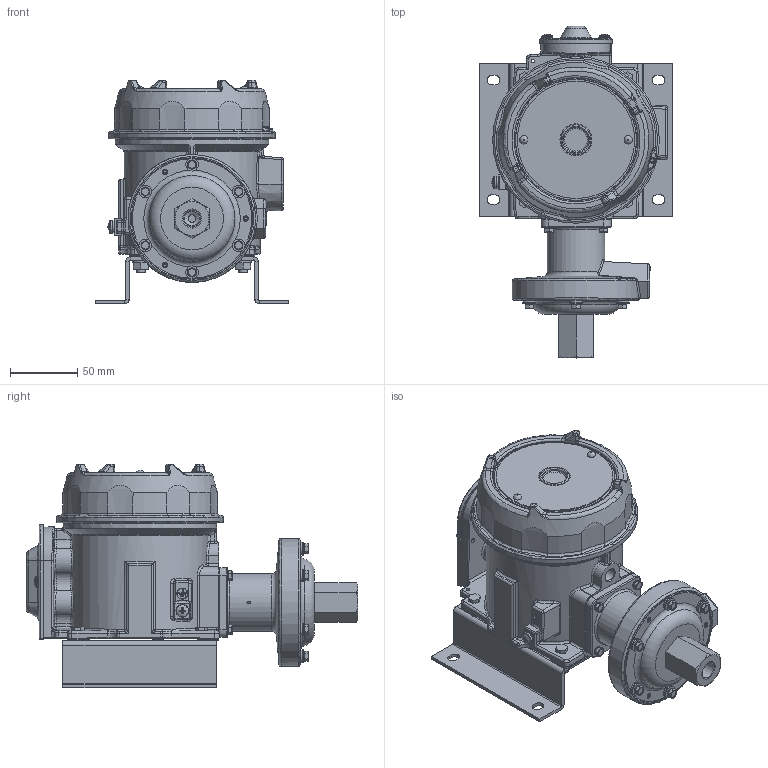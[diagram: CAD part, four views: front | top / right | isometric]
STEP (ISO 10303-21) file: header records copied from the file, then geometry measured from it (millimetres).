
FILE_DESCRIPTION (( 'STEP AP214' ), '1' );
FILE_NAME ('H121_H122-450_452_V1.STEP', '2025-03-28T17:25:00', ( '' ), ( '' ), 'SwSTEP 2.0', 'SolidWorks 2023', '' );
FILE_SCHEMA (( 'AUTOMOTIVE_DESIGN' ));
Length unit declared in the file: inch
Products named in the file (1): H121_H122-450_452_V1
Bounding box: 144.27 x 246.99 x 166.42 mm (x, y, z)
Volume: 800866.2 mm3; surface area: 300941.1 mm2
Topology: 54 solids, 55 shells, 2298 faces, 5396 edges, 3242 vertices
Faces by surface type: plane 781, cylinder 611, bspline 376, cone 276, torus 198, sphere 56
Full cylindrical faces by diameter (mm): 1.981 x1, 2.87 x2, 3.175 x2, 3.22 x1, 3.454 x19, 3.962 x5, 3.969 x2, 4 x1, 4.166 x10, 4.2 x2, 4.343 x12, 4.394 x6, 4.496 x4, 4.75 x2, 5 x1, 5.556 x11, 5.791 x1, 6.35 x8, 6.426 x1, 7.112 x1, 7.144 x4, 7.925 x2, 8.179 x2, 8.204 x2, 9.5 x1, 9.525 x12, 10.312 x1, 11.125 x1, 15.062 x1, 18.669 x1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
Entity records: 85711 total; most frequent: CARTESIAN_POINT 37859, ORIENTED_EDGE 9908, DIRECTION 9149, EDGE_CURVE 4954, AXIS2_PLACEMENT_3D 3714, VERTEX_POINT 3146, EDGE_LOOP 2808, FACE_OUTER_BOUND 2499
